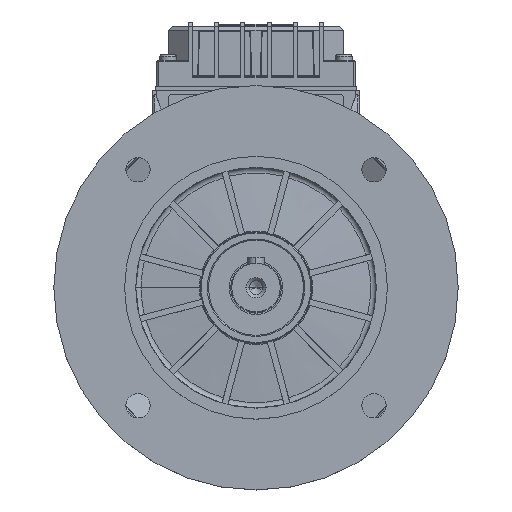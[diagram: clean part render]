
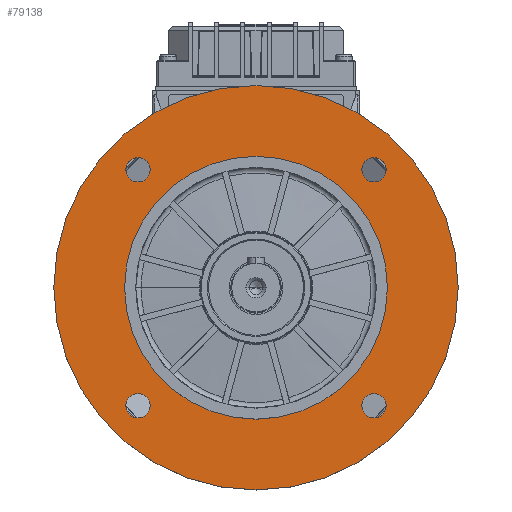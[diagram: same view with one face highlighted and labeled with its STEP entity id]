
A CAD part, top view. The second image highlights one B-rep face of the part: STEP entity #79138.
In plain terms, the highlighted planar face has unit normal (0, 0, 1) as drawn and (0, -1, 0) by its records, which use the part's own axes.
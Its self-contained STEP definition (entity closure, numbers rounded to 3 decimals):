
#1412 = CARTESIAN_POINT ( 'NONE',  ( -58.336, 3.5, -52.336 ) ) ;
#1604 = AXIS2_PLACEMENT_3D ( 'NONE', #58017, #136516, #69327 ) ;
#2481 = CARTESIAN_POINT ( 'NONE',  ( -58.336, 3.5, 52.336 ) ) ;
#3235 = EDGE_CURVE ( 'NONE', #86908, #99421, #118892, .T. ) ;
#4147 = AXIS2_PLACEMENT_3D ( 'NONE', #47132, #125600, #58384 ) ;
#4194 = ORIENTED_EDGE ( 'NONE', *, *, #120009, .T. ) ;
#6976 = CARTESIAN_POINT ( 'NONE',  ( -58.336, 3.5, -58.336 ) ) ;
#8302 = CIRCLE ( 'NONE', #45516, 6. ) ;
#8544 = CARTESIAN_POINT ( 'NONE',  ( 0., 3.5, 65. ) ) ;
#8636 = ORIENTED_EDGE ( 'NONE', *, *, #3235, .T. ) ;
#9130 = ORIENTED_EDGE ( 'NONE', *, *, #90195, .F. ) ;
#10554 = ORIENTED_EDGE ( 'NONE', *, *, #29308, .F. ) ;
#11938 = CIRCLE ( 'NONE', #109870, 65. ) ;
#13637 = AXIS2_PLACEMENT_3D ( 'NONE', #24719, #103193, #35979 ) ;
#16375 = EDGE_CURVE ( 'NONE', #28783, #58703, #67496, .T. ) ;
#16740 = FACE_BOUND ( 'NONE', #71090, .T. ) ;
#17136 = EDGE_CURVE ( 'NONE', #70367, #127896, #116414, .T. ) ;
#18257 = DIRECTION ( 'NONE',  ( 0., 0., -1. ) ) ;
#18711 = CARTESIAN_POINT ( 'NONE',  ( -58.336, 3.5, 58.336 ) ) ;
#18815 = EDGE_CURVE ( 'NONE', #93844, #71897, #119525, .T. ) ;
#19787 = DIRECTION ( 'NONE',  ( 0., 0., -1. ) ) ;
#20712 = CIRCLE ( 'NONE', #38936, 6. ) ;
#24719 = CARTESIAN_POINT ( 'NONE',  ( 58.336, 3.5, 58.336 ) ) ;
#25485 = CIRCLE ( 'NONE', #1604, 6. ) ;
#28783 = VERTEX_POINT ( 'NONE', #124012 ) ;
#29308 = EDGE_CURVE ( 'NONE', #43906, #121868, #33712, .T. ) ;
#30026 = DIRECTION ( 'NONE',  ( 0., 0., -1. ) ) ;
#31075 = EDGE_CURVE ( 'NONE', #127896, #70367, #25485, .T. ) ;
#31363 = CARTESIAN_POINT ( 'NONE',  ( 0., 3.5, 0. ) ) ;
#33712 = CIRCLE ( 'NONE', #13637, 6. ) ;
#33802 = ORIENTED_EDGE ( 'NONE', *, *, #17136, .F. ) ;
#35979 = DIRECTION ( 'NONE',  ( 0., 0., -1. ) ) ;
#35997 = AXIS2_PLACEMENT_3D ( 'NONE', #18711, #97259, #30026 ) ;
#36039 = FACE_OUTER_BOUND ( 'NONE', #95869, .T. ) ;
#37265 = CARTESIAN_POINT ( 'NONE',  ( 58.336, 3.5, 52.336 ) ) ;
#37323 = ORIENTED_EDGE ( 'NONE', *, *, #31075, .F. ) ;
#38936 = AXIS2_PLACEMENT_3D ( 'NONE', #55727, #134217, #67075 ) ;
#42630 = DIRECTION ( 'NONE',  ( 0., 0., 1. ) ) ;
#43110 = DIRECTION ( 'NONE',  ( 0., -1., 0. ) ) ;
#43199 = CARTESIAN_POINT ( 'NONE',  ( 58.336, 3.5, -64.336 ) ) ;
#43906 = VERTEX_POINT ( 'NONE', #37265 ) ;
#45516 = AXIS2_PLACEMENT_3D ( 'NONE', #62062, #140606, #73416 ) ;
#46669 = ORIENTED_EDGE ( 'NONE', *, *, #59775, .F. ) ;
#47055 = VERTEX_POINT ( 'NONE', #78445 ) ;
#47132 = CARTESIAN_POINT ( 'NONE',  ( 0., 3.5, 0. ) ) ;
#47539 = DIRECTION ( 'NONE',  ( 0., 1., 0. ) ) ;
#48356 = CIRCLE ( 'NONE', #101833, 6. ) ;
#51513 = EDGE_LOOP ( 'NONE', ( #33802, #37323 ) ) ;
#55727 = CARTESIAN_POINT ( 'NONE',  ( -58.336, 3.5, -58.336 ) ) ;
#56230 = AXIS2_PLACEMENT_3D ( 'NONE', #6976, #85490, #18257 ) ;
#58017 = CARTESIAN_POINT ( 'NONE',  ( -58.336, 3.5, 58.336 ) ) ;
#58384 = DIRECTION ( 'NONE',  ( 0., 0., 1. ) ) ;
#58703 = VERTEX_POINT ( 'NONE', #43199 ) ;
#59775 = EDGE_CURVE ( 'NONE', #121868, #43906, #48356, .T. ) ;
#61281 = CARTESIAN_POINT ( 'NONE',  ( 58.336, 3.5, 58.336 ) ) ;
#62062 = CARTESIAN_POINT ( 'NONE',  ( 58.336, 3.5, -58.336 ) ) ;
#62453 = CARTESIAN_POINT ( 'NONE',  ( -58.336, 3.5, 64.336 ) ) ;
#63715 = CARTESIAN_POINT ( 'NONE',  ( 0., 3.5, 0. ) ) ;
#64806 = AXIS2_PLACEMENT_3D ( 'NONE', #63715, #142239, #75024 ) ;
#65943 = FACE_BOUND ( 'NONE', #103028, .T. ) ;
#67075 = DIRECTION ( 'NONE',  ( 0., 0., -1. ) ) ;
#67496 = CIRCLE ( 'NONE', #104519, 6. ) ;
#67980 = CIRCLE ( 'NONE', #56230, 6. ) ;
#69327 = DIRECTION ( 'NONE',  ( 0., 0., -1. ) ) ;
#69333 = EDGE_CURVE ( 'NONE', #71897, #93844, #131918, .T. ) ;
#70367 = VERTEX_POINT ( 'NONE', #62453 ) ;
#70961 = ORIENTED_EDGE ( 'NONE', *, *, #76648, .F. ) ;
#71090 = EDGE_LOOP ( 'NONE', ( #46669, #10554 ) ) ;
#71897 = VERTEX_POINT ( 'NONE', #91785 ) ;
#72619 = DIRECTION ( 'NONE',  ( 0., 0., -1. ) ) ;
#73416 = DIRECTION ( 'NONE',  ( 0., 0., -1. ) ) ;
#75024 = DIRECTION ( 'NONE',  ( 0., 0., 1. ) ) ;
#76648 = EDGE_CURVE ( 'NONE', #58703, #28783, #8302, .T. ) ;
#77536 = CARTESIAN_POINT ( 'NONE',  ( 0., 3.5, 65. ) ) ;
#78445 = CARTESIAN_POINT ( 'NONE',  ( -58.336, 3.5, -64.336 ) ) ;
#79138 = ADVANCED_FACE ( 'NONE', ( #102797, #16740, #125584, #95767, #65943, #36039 ), #109072, .T. ) ;
#85490 = DIRECTION ( 'NONE',  ( 0., -1., 0. ) ) ;
#86908 = VERTEX_POINT ( 'NONE', #77536 ) ;
#87024 = DIRECTION ( 'NONE',  ( 0., -1., 0. ) ) ;
#89523 = CARTESIAN_POINT ( 'NONE',  ( 58.336, 3.5, 64.336 ) ) ;
#90195 = EDGE_CURVE ( 'NONE', #47055, #123305, #67980, .T. ) ;
#90636 = CARTESIAN_POINT ( 'NONE',  ( 0., 3.5, 100. ) ) ;
#91785 = CARTESIAN_POINT ( 'NONE',  ( 0., 3.5, -100. ) ) ;
#93844 = VERTEX_POINT ( 'NONE', #90636 ) ;
#95767 = FACE_BOUND ( 'NONE', #99908, .T. ) ;
#95869 = EDGE_LOOP ( 'NONE', ( #111664, #144403 ) ) ;
#96124 = EDGE_CURVE ( 'NONE', #123305, #47055, #20712, .T. ) ;
#97259 = DIRECTION ( 'NONE',  ( 0., -1., 0. ) ) ;
#97571 = AXIS2_PLACEMENT_3D ( 'NONE', #8544, #87024, #19787 ) ;
#99421 = VERTEX_POINT ( 'NONE', #143951 ) ;
#99908 = EDGE_LOOP ( 'NONE', ( #122145, #9130 ) ) ;
#101833 = AXIS2_PLACEMENT_3D ( 'NONE', #61281, #139828, #72619 ) ;
#102797 = FACE_BOUND ( 'NONE', #116821, .T. ) ;
#103028 = EDGE_LOOP ( 'NONE', ( #8636, #4194 ) ) ;
#103193 = DIRECTION ( 'NONE',  ( 0., -1., 0. ) ) ;
#104519 = AXIS2_PLACEMENT_3D ( 'NONE', #110271, #43110, #121586 ) ;
#109072 = PLANE ( 'NONE',  #97571 ) ;
#109777 = DIRECTION ( 'NONE',  ( 0., 1., 0. ) ) ;
#109870 = AXIS2_PLACEMENT_3D ( 'NONE', #31363, #109777, #42630 ) ;
#110271 = CARTESIAN_POINT ( 'NONE',  ( 58.336, 3.5, -58.336 ) ) ;
#111664 = ORIENTED_EDGE ( 'NONE', *, *, #18815, .F. ) ;
#114718 = CARTESIAN_POINT ( 'NONE',  ( 0., 3.5, 0. ) ) ;
#115328 = AXIS2_PLACEMENT_3D ( 'NONE', #114718, #47539, #126005 ) ;
#116414 = CIRCLE ( 'NONE', #35997, 6. ) ;
#116821 = EDGE_LOOP ( 'NONE', ( #145652, #70961 ) ) ;
#118892 = CIRCLE ( 'NONE', #64806, 65. ) ;
#119525 = CIRCLE ( 'NONE', #4147, 100. ) ;
#120009 = EDGE_CURVE ( 'NONE', #99421, #86908, #11938, .T. ) ;
#121586 = DIRECTION ( 'NONE',  ( 0., 0., -1. ) ) ;
#121868 = VERTEX_POINT ( 'NONE', #89523 ) ;
#122145 = ORIENTED_EDGE ( 'NONE', *, *, #96124, .F. ) ;
#123305 = VERTEX_POINT ( 'NONE', #1412 ) ;
#124012 = CARTESIAN_POINT ( 'NONE',  ( 58.336, 3.5, -52.336 ) ) ;
#125584 = FACE_BOUND ( 'NONE', #51513, .T. ) ;
#125600 = DIRECTION ( 'NONE',  ( 0., 1., 0. ) ) ;
#126005 = DIRECTION ( 'NONE',  ( 0., 0., 1. ) ) ;
#127896 = VERTEX_POINT ( 'NONE', #2481 ) ;
#131918 = CIRCLE ( 'NONE', #115328, 100. ) ;
#134217 = DIRECTION ( 'NONE',  ( 0., -1., 0. ) ) ;
#136516 = DIRECTION ( 'NONE',  ( 0., -1., 0. ) ) ;
#139828 = DIRECTION ( 'NONE',  ( 0., -1., 0. ) ) ;
#140606 = DIRECTION ( 'NONE',  ( 0., -1., 0. ) ) ;
#142239 = DIRECTION ( 'NONE',  ( 0., 1., 0. ) ) ;
#143951 = CARTESIAN_POINT ( 'NONE',  ( 0., 3.5, -65. ) ) ;
#144403 = ORIENTED_EDGE ( 'NONE', *, *, #69333, .F. ) ;
#145652 = ORIENTED_EDGE ( 'NONE', *, *, #16375, .F. ) ;
